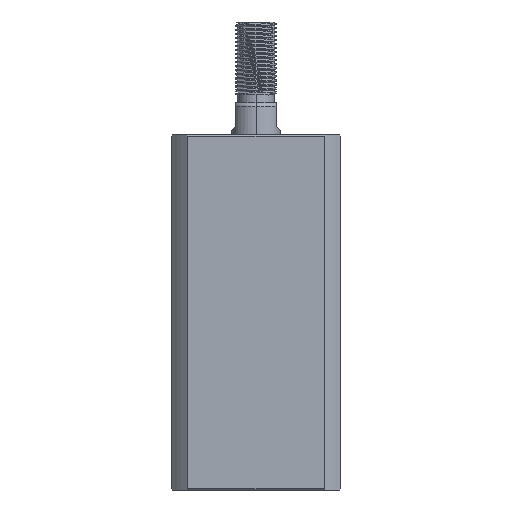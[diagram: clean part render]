
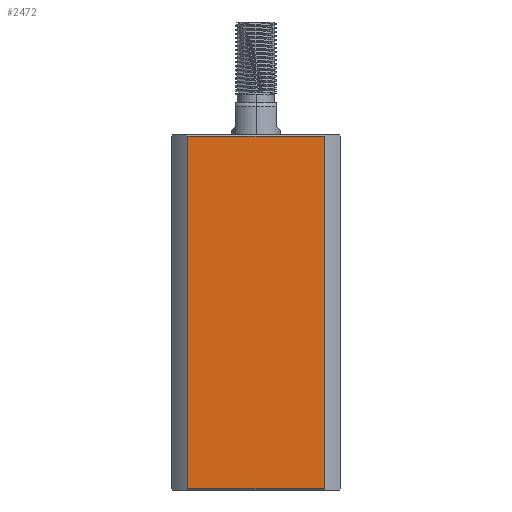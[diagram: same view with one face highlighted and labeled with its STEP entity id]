
A CAD part, left-side view. The second image highlights one B-rep face of the part: STEP entity #2472.
In plain terms, the highlighted planar face has unit normal (-1, 0, 0).
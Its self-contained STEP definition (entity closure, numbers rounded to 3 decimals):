
#602 = DIRECTION ( 'NONE',  ( 0., 1., 0. ) ) ;
#819 = ORIENTED_EDGE ( 'NONE', *, *, #11731, .T. ) ;
#1122 = EDGE_CURVE ( 'NONE', #6319, #12162, #13857, .T. ) ;
#1620 = VERTEX_POINT ( 'NONE', #12486 ) ;
#2472 = ADVANCED_FACE ( 'NONE', ( #2748 ), #14533, .F. ) ;
#2748 = FACE_OUTER_BOUND ( 'NONE', #13753, .T. ) ;
#2914 = LINE ( 'NONE', #6291, #12539 ) ;
#3265 = CARTESIAN_POINT ( 'NONE',  ( -21., -16.971, 87.7 ) ) ;
#4102 = ORIENTED_EDGE ( 'NONE', *, *, #9990, .T. ) ;
#4189 = DIRECTION ( 'NONE',  ( 0., -1., 0. ) ) ;
#5197 = CARTESIAN_POINT ( 'NONE',  ( -21., 21., 88. ) ) ;
#5410 = VECTOR ( 'NONE', #4189, 1000. ) ;
#5432 = LINE ( 'NONE', #10149, #13993 ) ;
#5469 = DIRECTION ( 'NONE',  ( 0., 1., 0. ) ) ;
#5767 = LINE ( 'NONE', #7629, #5410 ) ;
#6291 = CARTESIAN_POINT ( 'NONE',  ( -21., 16.971, -212. ) ) ;
#6319 = VERTEX_POINT ( 'NONE', #3265 ) ;
#6413 = ORIENTED_EDGE ( 'NONE', *, *, #12131, .F. ) ;
#7507 = DIRECTION ( 'NONE',  ( 1., 0., 0. ) ) ;
#7629 = CARTESIAN_POINT ( 'NONE',  ( -21., 21., 0.3 ) ) ;
#7940 = VERTEX_POINT ( 'NONE', #12211 ) ;
#9990 = EDGE_CURVE ( 'NONE', #1620, #12162, #5767, .T. ) ;
#10149 = CARTESIAN_POINT ( 'NONE',  ( -21., 21., 87.7 ) ) ;
#10205 = CARTESIAN_POINT ( 'NONE',  ( -21., -16.971, -212. ) ) ;
#10728 = DIRECTION ( 'NONE',  ( 0., 0., -1. ) ) ;
#11378 = ORIENTED_EDGE ( 'NONE', *, *, #1122, .F. ) ;
#11731 = EDGE_CURVE ( 'NONE', #6319, #7940, #5432, .T. ) ;
#11849 = AXIS2_PLACEMENT_3D ( 'NONE', #5197, #7507, #602 ) ;
#12131 = EDGE_CURVE ( 'NONE', #1620, #7940, #2914, .T. ) ;
#12162 = VERTEX_POINT ( 'NONE', #12398 ) ;
#12211 = CARTESIAN_POINT ( 'NONE',  ( -21., 16.971, 87.7 ) ) ;
#12398 = CARTESIAN_POINT ( 'NONE',  ( -21., -16.971, 0.3 ) ) ;
#12486 = CARTESIAN_POINT ( 'NONE',  ( -21., 16.971, 0.3 ) ) ;
#12539 = VECTOR ( 'NONE', #13328, 1000. ) ;
#13328 = DIRECTION ( 'NONE',  ( 0., 0., 1. ) ) ;
#13503 = VECTOR ( 'NONE', #10728, 1000. ) ;
#13753 = EDGE_LOOP ( 'NONE', ( #6413, #4102, #11378, #819 ) ) ;
#13857 = LINE ( 'NONE', #10205, #13503 ) ;
#13993 = VECTOR ( 'NONE', #5469, 1000. ) ;
#14533 = PLANE ( 'NONE',  #11849 ) ;
